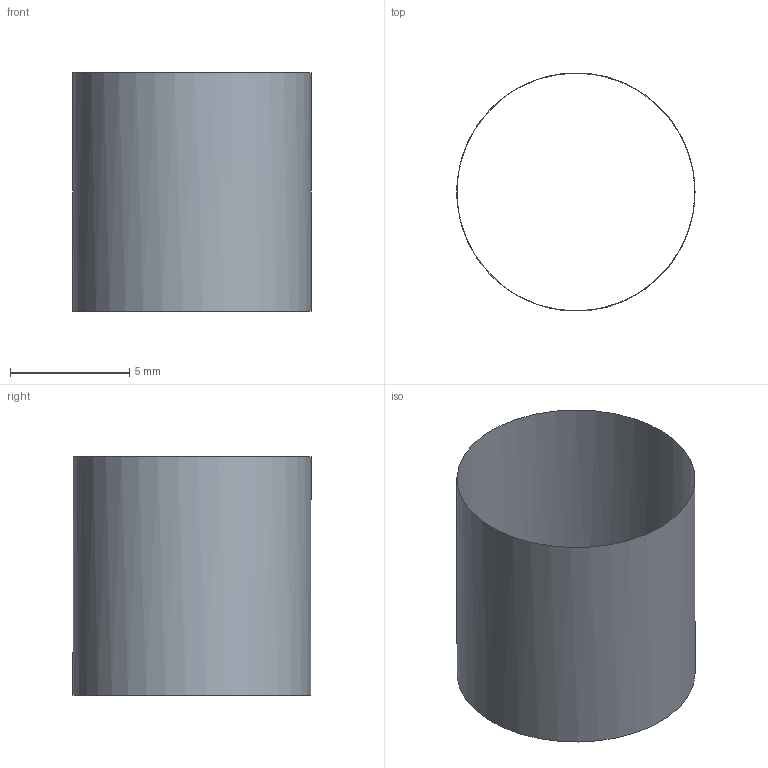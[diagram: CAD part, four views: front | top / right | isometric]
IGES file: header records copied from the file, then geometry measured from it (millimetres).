
Global section: file name: Filename.iges; native system: MATRA-DATAVISION CASCADE OL 4.0; preprocessor: CASCADE IGES processor V4.0; author: jbz; date: 20011218.170307; units: millimetre
Bounding box: 9.99 x 10 x 10 mm (x, y, z)
Surface area: 314.2 mm2 (no closed solid volume)
Topology: 0 solids, 0 shells, 1 faces, 4 edges, 2 vertices
Faces by surface type: revolution 1
